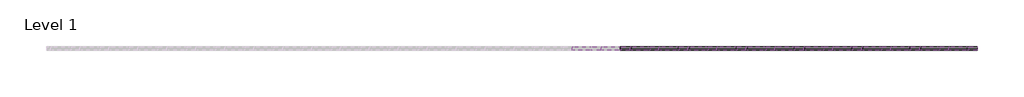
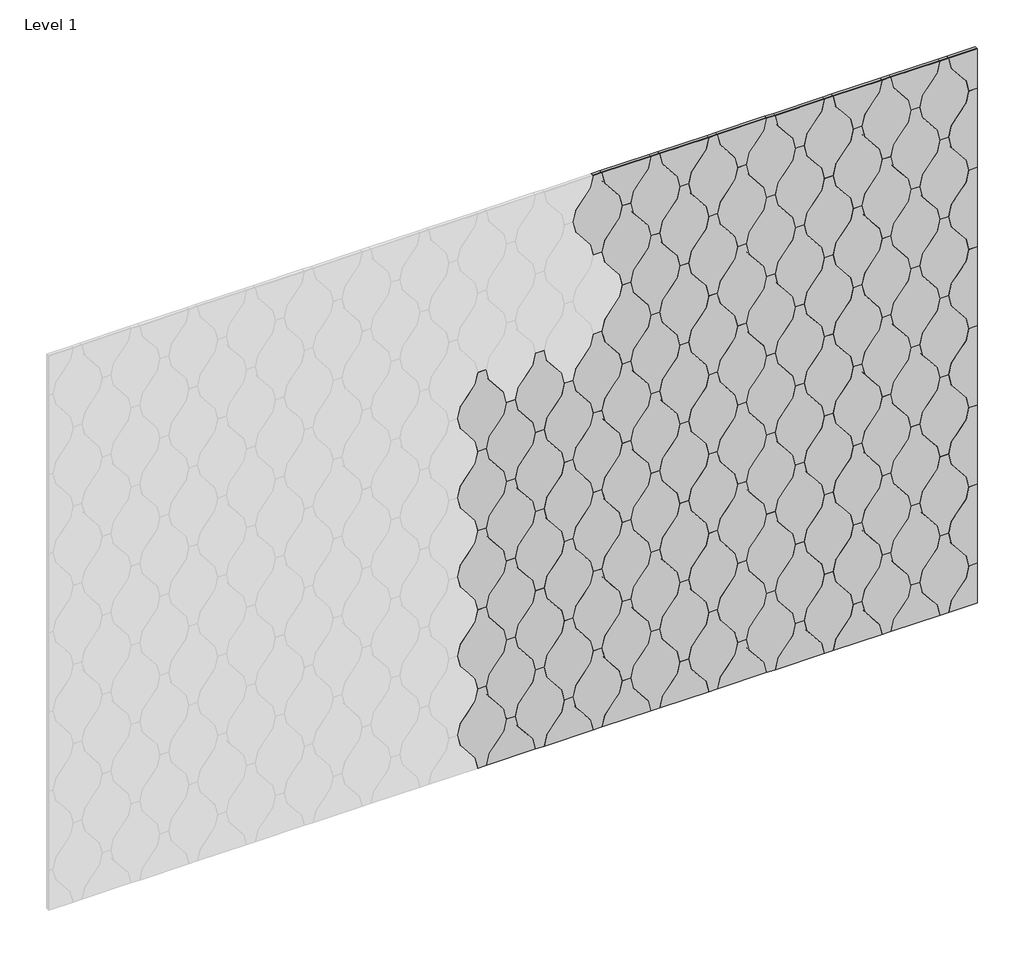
# One storey, part 2 of 2: 124 proxies.
"""IFC4 building model written with IfcOpenShell, lengths in millimetres."""

from ifc_helpers import new_model, si_unit, origin, place, context, project, spatial, transform, mapped, element, save
from components import spindle_block_0c82a0da, spindle_block_164295e7, spindle_block_caec9fa1, spindle_block_4eaa1774, spindle_block_4f026df0, spindle_block_cb91bb9c

model = new_model("IFC4")

# Units and contexts
model_context = context("Model", 3, world=origin())
ifc_project = project(units=[si_unit("LENGTHUNIT", "METRE", prefix="MILLI")], contexts=[model_context])

# Site, building, storey
site = spatial("IfcSite", under=ifc_project)
building = spatial("IfcBuilding", under=site)
storey = spatial("IfcBuildingStorey", under=building, Name="Level 1", Elevation=0.0)

# Proxies
placement = place(None, origin())
spindle_block_shape = spindle_block_0c82a0da(model_context)
element("IfcBuildingElementProxy", 1, Name="FilzFelt_Spindle_Block : Spindle Block", ObjectType="FilzFelt_Spindle_Block : Spindle Block", at=placement, inside=storey, context=model_context, shape_type="MappedRepresentation", body=[
    mapped(spindle_block_shape, transform((34558.1847933, -3215.9647205, 1371.9), x_axis=(1.0, 0.0, 0.0), y_axis=(0.0, 0.0, 1.0), z_axis=(0.0, -1.0, 0.0))),
])
element("IfcBuildingElementProxy", 2, Name="FilzFelt_Spindle_Block : Spindle Block", ObjectType="FilzFelt_Spindle_Block : Spindle Block", at=placement, inside=storey, context=model_context, shape_type="MappedRepresentation", body=[
    mapped(spindle_block_shape, transform((34663.4053284, -3215.9647205, 1219.4), x_axis=(1.0, 0.0, 0.0), y_axis=(0.0, 0.0, 1.0), z_axis=(0.0, -1.0, 0.0))),
])
element("IfcBuildingElementProxy", 3, Name="FilzFelt_Spindle_Block : Spindle Block", ObjectType="FilzFelt_Spindle_Block : Spindle Block", at=placement, inside=storey, context=model_context, shape_type="MappedRepresentation", body=[
    mapped(spindle_block_shape, transform((34873.8463988, -3215.9647205, 1524.4), x_axis=(1.0, 0.0, 0.0), y_axis=(0.0, 0.0, 1.0), z_axis=(0.0, -1.0, 0.0))),
])
element("IfcBuildingElementProxy", 4, Name="FilzFelt_Spindle_Block : Spindle Block", ObjectType="FilzFelt_Spindle_Block : Spindle Block", at=placement, inside=storey, context=model_context, shape_type="MappedRepresentation", body=[
    mapped(spindle_block_shape, transform((35084.2874691, -3215.9647205, 1219.4), x_axis=(1.0, 0.0, 0.0), y_axis=(0.0, 0.0, 1.0), z_axis=(0.0, -1.0, 0.0))),
])
element("IfcBuildingElementProxy", 5, Name="FilzFelt_Spindle_Block : Spindle Block", ObjectType="FilzFelt_Spindle_Block : Spindle Block", at=placement, inside=storey, context=model_context, shape_type="MappedRepresentation", body=[
    mapped(spindle_block_shape, transform((35399.9490746, -3215.9647205, 1371.9), x_axis=(1.0, 0.0, 0.0), y_axis=(0.0, 0.0, 1.0), z_axis=(0.0, -1.0, 0.0))),
])
element("IfcBuildingElementProxy", 6, Name="FilzFelt_Spindle_Block : Spindle Block", ObjectType="FilzFelt_Spindle_Block : Spindle Block", at=placement, inside=storey, context=model_context, shape_type="MappedRepresentation", body=[
    mapped(spindle_block_shape, transform((35610.3901449, -3215.9647205, 1066.9), x_axis=(1.0, 0.0, 0.0), y_axis=(0.0, 0.0, 1.0), z_axis=(0.0, -1.0, 0.0))),
])
element("IfcBuildingElementProxy", 7, Name="FilzFelt_Spindle_Block : Spindle Block", ObjectType="FilzFelt_Spindle_Block : Spindle Block", at=placement, inside=storey, context=model_context, shape_type="MappedRepresentation", body=[
    mapped(spindle_block_shape, transform((34032.0821174, -3215.9647205, 914.4), x_axis=(1.0, 0.0, 0.0), y_axis=(0.0, 0.0, 1.0), z_axis=(0.0, -1.0, 0.0))),
])
element("IfcBuildingElementProxy", 8, Name="FilzFelt_Spindle_Block : Spindle Block", ObjectType="FilzFelt_Spindle_Block : Spindle Block", at=placement, inside=storey, context=model_context, shape_type="MappedRepresentation", body=[
    mapped(spindle_block_shape, transform((34242.5231878, -3215.9647205, 609.4), x_axis=(1.0, 0.0, 0.0), y_axis=(0.0, 0.0, 1.0), z_axis=(0.0, -1.0, 0.0))),
])
element("IfcBuildingElementProxy", 9, Name="FilzFelt_Spindle_Block : Spindle Block", ObjectType="FilzFelt_Spindle_Block : Spindle Block", at=placement, inside=storey, context=model_context, shape_type="MappedRepresentation", body=[
    mapped(spindle_block_shape, transform((34347.7437229, -3215.9647205, 456.9), x_axis=(1.0, 0.0, 0.0), y_axis=(0.0, 0.0, 1.0), z_axis=(0.0, -1.0, 0.0))),
])
element("IfcBuildingElementProxy", 10, Name="FilzFelt_Spindle_Block : Spindle Block", ObjectType="FilzFelt_Spindle_Block : Spindle Block", at=placement, inside=storey, context=model_context, shape_type="MappedRepresentation", body=[
    mapped(spindle_block_shape, transform((34558.1847933, -3215.9647205, 761.9), x_axis=(1.0, 0.0, 0.0), y_axis=(0.0, 0.0, 1.0), z_axis=(0.0, -1.0, 0.0))),
])
element("IfcBuildingElementProxy", 11, Name="FilzFelt_Spindle_Block : Spindle Block", ObjectType="FilzFelt_Spindle_Block : Spindle Block", at=placement, inside=storey, context=model_context, shape_type="MappedRepresentation", body=[
    mapped(spindle_block_shape, transform((34873.8463988, -3215.9647205, 609.4), x_axis=(1.0, 0.0, 0.0), y_axis=(0.0, 0.0, 1.0), z_axis=(0.0, -1.0, 0.0))),
])
element("IfcBuildingElementProxy", 12, Name="FilzFelt_Spindle_Block : Spindle Block", ObjectType="FilzFelt_Spindle_Block : Spindle Block", at=placement, inside=storey, context=model_context, shape_type="MappedRepresentation", body=[
    mapped(spindle_block_shape, transform((34873.8463988, -3215.9647205, 914.4), x_axis=(1.0, 0.0, 0.0), y_axis=(0.0, 0.0, 1.0), z_axis=(0.0, -1.0, 0.0))),
])
element("IfcBuildingElementProxy", 13, Name="FilzFelt_Spindle_Block : Spindle Block", ObjectType="FilzFelt_Spindle_Block : Spindle Block", at=placement, inside=storey, context=model_context, shape_type="MappedRepresentation", body=[
    mapped(spindle_block_shape, transform((34979.0669339, -3215.9647205, 761.9), x_axis=(1.0, 0.0, 0.0), y_axis=(0.0, 0.0, 1.0), z_axis=(0.0, -1.0, 0.0))),
])
element("IfcBuildingElementProxy", 14, Name="FilzFelt_Spindle_Block : Spindle Block", ObjectType="FilzFelt_Spindle_Block : Spindle Block", at=placement, inside=storey, context=model_context, shape_type="MappedRepresentation", body=[
    mapped(spindle_block_shape, transform((35084.2874691, -3215.9647205, 609.4), x_axis=(1.0, 0.0, 0.0), y_axis=(0.0, 0.0, 1.0), z_axis=(0.0, -1.0, 0.0))),
])
element("IfcBuildingElementProxy", 15, Name="FilzFelt_Spindle_Block : Spindle Block", ObjectType="FilzFelt_Spindle_Block : Spindle Block", at=placement, inside=storey, context=model_context, shape_type="MappedRepresentation", body=[
    mapped(spindle_block_shape, transform((35294.7285394, -3215.9647205, 914.4), x_axis=(1.0, 0.0, 0.0), y_axis=(0.0, 0.0, 1.0), z_axis=(0.0, -1.0, 0.0))),
])
element("IfcBuildingElementProxy", 16, Name="FilzFelt_Spindle_Block : Spindle Block", ObjectType="FilzFelt_Spindle_Block : Spindle Block", at=placement, inside=storey, context=model_context, shape_type="MappedRepresentation", body=[
    mapped(spindle_block_shape, transform((35505.1696098, -3215.9647205, 609.4), x_axis=(1.0, 0.0, 0.0), y_axis=(0.0, 0.0, 1.0), z_axis=(0.0, -1.0, 0.0))),
])
element("IfcBuildingElementProxy", 17, Name="FilzFelt_Spindle_Block : Spindle Block", ObjectType="FilzFelt_Spindle_Block : Spindle Block", at=placement, inside=storey, context=model_context, shape_type="MappedRepresentation", body=[
    mapped(spindle_block_shape, transform((35610.3901449, -3215.9647205, 456.9), x_axis=(1.0, 0.0, 0.0), y_axis=(0.0, 0.0, 1.0), z_axis=(0.0, -1.0, 0.0))),
])
element("IfcBuildingElementProxy", 18, Name="FilzFelt_Spindle_Block : Spindle Block", ObjectType="FilzFelt_Spindle_Block : Spindle Block", at=placement, inside=storey, context=model_context, shape_type="MappedRepresentation", body=[
    mapped(spindle_block_shape, transform((35715.6106801, -3215.9647205, 914.4), x_axis=(1.0, 0.0, 0.0), y_axis=(0.0, 0.0, 1.0), z_axis=(0.0, -1.0, 0.0))),
])
element("IfcBuildingElementProxy", 19, Name="FilzFelt_Spindle_Block : Spindle Block", ObjectType="FilzFelt_Spindle_Block : Spindle Block", at=placement, inside=storey, context=model_context, shape_type="MappedRepresentation", body=[
    mapped(spindle_block_shape, transform((34242.5231878, -3215.9647205, -0.6), x_axis=(1.0, 0.0, 0.0), y_axis=(0.0, 0.0, 1.0), z_axis=(0.0, -1.0, 0.0))),
])
element("IfcBuildingElementProxy", 20, Name="FilzFelt_Spindle_Block : Spindle Block", ObjectType="FilzFelt_Spindle_Block : Spindle Block", at=placement, inside=storey, context=model_context, shape_type="MappedRepresentation", body=[
    mapped(spindle_block_shape, transform((34347.7437229, -3215.9647205, 151.9), x_axis=(1.0, 0.0, 0.0), y_axis=(0.0, 0.0, 1.0), z_axis=(0.0, -1.0, 0.0))),
])
element("IfcBuildingElementProxy", 21, Name="FilzFelt_Spindle_Block : Spindle Block", ObjectType="FilzFelt_Spindle_Block : Spindle Block", at=placement, inside=storey, context=model_context, shape_type="MappedRepresentation", body=[
    mapped(spindle_block_shape, transform((34558.1847933, -3215.9647205, -153.1), x_axis=(1.0, 0.0, 0.0), y_axis=(0.0, 0.0, 1.0), z_axis=(0.0, -1.0, 0.0))),
])
element("IfcBuildingElementProxy", 22, Name="FilzFelt_Spindle_Block : Spindle Block", ObjectType="FilzFelt_Spindle_Block : Spindle Block", at=placement, inside=storey, context=model_context, shape_type="MappedRepresentation", body=[
    mapped(spindle_block_shape, transform((34663.4053284, -3215.9647205, 304.4), x_axis=(1.0, 0.0, 0.0), y_axis=(0.0, 0.0, 1.0), z_axis=(0.0, -1.0, 0.0))),
])
element("IfcBuildingElementProxy", 23, Name="FilzFelt_Spindle_Block : Spindle Block", ObjectType="FilzFelt_Spindle_Block : Spindle Block", at=placement, inside=storey, context=model_context, shape_type="MappedRepresentation", body=[
    mapped(spindle_block_shape, transform((34873.8463988, -3215.9647205, -0.6), x_axis=(1.0, 0.0, 0.0), y_axis=(0.0, 0.0, 1.0), z_axis=(0.0, -1.0, 0.0))),
])
element("IfcBuildingElementProxy", 24, Name="FilzFelt_Spindle_Block : Spindle Block", ObjectType="FilzFelt_Spindle_Block : Spindle Block", at=placement, inside=storey, context=model_context, shape_type="MappedRepresentation", body=[
    mapped(spindle_block_shape, transform((34873.8463988, -3215.9647205, 304.4), x_axis=(1.0, 0.0, 0.0), y_axis=(0.0, 0.0, 1.0), z_axis=(0.0, -1.0, 0.0))),
])
element("IfcBuildingElementProxy", 25, Name="FilzFelt_Spindle_Block : Spindle Block", ObjectType="FilzFelt_Spindle_Block : Spindle Block", at=placement, inside=storey, context=model_context, shape_type="MappedRepresentation", body=[
    mapped(spindle_block_shape, transform((35084.2874691, -3215.9647205, 304.4), x_axis=(1.0, 0.0, 0.0), y_axis=(0.0, 0.0, 1.0), z_axis=(0.0, -1.0, 0.0))),
])
element("IfcBuildingElementProxy", 26, Name="FilzFelt_Spindle_Block : Spindle Block", ObjectType="FilzFelt_Spindle_Block : Spindle Block", at=placement, inside=storey, context=model_context, shape_type="MappedRepresentation", body=[
    mapped(spindle_block_shape, transform((35189.5080043, -3215.9647205, 151.9), x_axis=(1.0, 0.0, 0.0), y_axis=(0.0, 0.0, 1.0), z_axis=(0.0, -1.0, 0.0))),
])
element("IfcBuildingElementProxy", 27, Name="FilzFelt_Spindle_Block : Spindle Block", ObjectType="FilzFelt_Spindle_Block : Spindle Block", at=placement, inside=storey, context=model_context, shape_type="MappedRepresentation", body=[
    mapped(spindle_block_shape, transform((35399.9490746, -3215.9647205, 151.9), x_axis=(1.0, 0.0, 0.0), y_axis=(0.0, 0.0, 1.0), z_axis=(0.0, -1.0, 0.0))),
])
element("IfcBuildingElementProxy", 28, Name="FilzFelt_Spindle_Block : Spindle Block", ObjectType="FilzFelt_Spindle_Block : Spindle Block", at=placement, inside=storey, context=model_context, shape_type="MappedRepresentation", body=[
    mapped(spindle_block_shape, transform((35399.9490746, -3215.9647205, -153.1), x_axis=(1.0, 0.0, 0.0), y_axis=(0.0, 0.0, 1.0), z_axis=(0.0, -1.0, 0.0))),
])
element("IfcBuildingElementProxy", 29, Name="FilzFelt_Spindle_Block : Spindle Block", ObjectType="FilzFelt_Spindle_Block : Spindle Block", at=placement, inside=storey, context=model_context, shape_type="MappedRepresentation", body=[
    mapped(spindle_block_shape, transform((34663.4053284, -3215.9647205, -305.6), x_axis=(1.0, 0.0, 0.0), y_axis=(0.0, 0.0, 1.0), z_axis=(0.0, -1.0, 0.0))),
])
element("IfcBuildingElementProxy", 30, Name="FilzFelt_Spindle_Block : Spindle Block", ObjectType="FilzFelt_Spindle_Block : Spindle Block", at=placement, inside=storey, context=model_context, shape_type="MappedRepresentation", body=[
    mapped(spindle_block_shape, transform((35084.2874691, -3215.9647205, -305.6), x_axis=(1.0, 0.0, 0.0), y_axis=(0.0, 0.0, 1.0), z_axis=(0.0, -1.0, 0.0))),
])
spindle_block_2_shape = spindle_block_164295e7(model_context)
element("IfcBuildingElementProxy", 31, Name="FilzFelt_Spindle_Block : Spindle Block", ObjectType="FilzFelt_Spindle_Block : Spindle Block", at=placement, inside=storey, context=model_context, shape_type="MappedRepresentation", body=[
    mapped(spindle_block_2_shape, transform((34347.7437229, -3215.9647205, -458.1), x_axis=(1.0, 0.0, 0.0), y_axis=(0.0, 0.0, 1.0), z_axis=(0.0, -1.0, 0.0))),
])
element("IfcBuildingElementProxy", 32, Name="FilzFelt_Spindle_Block : Spindle Block", ObjectType="FilzFelt_Spindle_Block : Spindle Block", at=placement, inside=storey, context=model_context, shape_type="MappedRepresentation", body=[
    mapped(spindle_block_2_shape, transform((35610.3901449, -3215.9647205, -458.1), x_axis=(1.0, 0.0, 0.0), y_axis=(0.0, 0.0, 1.0), z_axis=(0.0, -1.0, 0.0))),
])
spindle_block_3_shape = spindle_block_caec9fa1(model_context)
element("IfcBuildingElementProxy", 33, Name="FilzFelt_Spindle_Block : Spindle Block", ObjectType="FilzFelt_Spindle_Block : Spindle Block", at=placement, inside=storey, context=model_context, shape_type="MappedRepresentation", body=[
    mapped(spindle_block_3_shape, transform((35189.5080043, -3215.9647205, 1676.9), x_axis=(1.0, 0.0, 0.0), y_axis=(0.0, 0.0, 1.0), z_axis=(0.0, -1.0, 0.0))),
])
element("IfcBuildingElementProxy", 34, Name="FilzFelt_Spindle_Block : Spindle Block", ObjectType="FilzFelt_Spindle_Block : Spindle Block", at=placement, inside=storey, context=model_context, shape_type="MappedRepresentation", body=[
    mapped(spindle_block_3_shape, transform((35399.9490746, -3215.9647205, 1676.9), x_axis=(1.0, 0.0, 0.0), y_axis=(0.0, 0.0, 1.0), z_axis=(0.0, -1.0, 0.0))),
])
element("IfcBuildingElementProxy", 35, Name="FilzFelt_Spindle_Block : Spindle Block", ObjectType="FilzFelt_Spindle_Block : Spindle Block", at=placement, inside=storey, context=model_context, shape_type="MappedRepresentation", body=[
    mapped(spindle_block_shape, transform((34452.9642581, -3215.9647205, 1524.4), x_axis=(1.0, 0.0, 0.0), y_axis=(0.0, 0.0, 1.0), z_axis=(0.0, -1.0, 0.0))),
])
element("IfcBuildingElementProxy", 36, Name="FilzFelt_Spindle_Block : Spindle Block", ObjectType="FilzFelt_Spindle_Block : Spindle Block", at=placement, inside=storey, context=model_context, shape_type="MappedRepresentation", body=[
    mapped(spindle_block_shape, transform((34768.6258636, -3215.9647205, 1371.9), x_axis=(1.0, 0.0, 0.0), y_axis=(0.0, 0.0, 1.0), z_axis=(0.0, -1.0, 0.0))),
])
element("IfcBuildingElementProxy", 37, Name="FilzFelt_Spindle_Block : Spindle Block", ObjectType="FilzFelt_Spindle_Block : Spindle Block", at=placement, inside=storey, context=model_context, shape_type="MappedRepresentation", body=[
    mapped(spindle_block_shape, transform((34979.0669339, -3215.9647205, 1066.9), x_axis=(1.0, 0.0, 0.0), y_axis=(0.0, 0.0, 1.0), z_axis=(0.0, -1.0, 0.0))),
])
element("IfcBuildingElementProxy", 38, Name="FilzFelt_Spindle_Block : Spindle Block", ObjectType="FilzFelt_Spindle_Block : Spindle Block", at=placement, inside=storey, context=model_context, shape_type="MappedRepresentation", body=[
    mapped(spindle_block_shape, transform((35189.5080043, -3215.9647205, 1371.9), x_axis=(1.0, 0.0, 0.0), y_axis=(0.0, 0.0, 1.0), z_axis=(0.0, -1.0, 0.0))),
])
element("IfcBuildingElementProxy", 39, Name="FilzFelt_Spindle_Block : Spindle Block", ObjectType="FilzFelt_Spindle_Block : Spindle Block", at=placement, inside=storey, context=model_context, shape_type="MappedRepresentation", body=[
    mapped(spindle_block_shape, transform((35294.7285394, -3215.9647205, 1219.4), x_axis=(1.0, 0.0, 0.0), y_axis=(0.0, 0.0, 1.0), z_axis=(0.0, -1.0, 0.0))),
])
element("IfcBuildingElementProxy", 40, Name="FilzFelt_Spindle_Block : Spindle Block", ObjectType="FilzFelt_Spindle_Block : Spindle Block", at=placement, inside=storey, context=model_context, shape_type="MappedRepresentation", body=[
    mapped(spindle_block_shape, transform((35505.1696098, -3215.9647205, 1524.4), x_axis=(1.0, 0.0, 0.0), y_axis=(0.0, 0.0, 1.0), z_axis=(0.0, -1.0, 0.0))),
])
element("IfcBuildingElementProxy", 41, Name="FilzFelt_Spindle_Block : Spindle Block", ObjectType="FilzFelt_Spindle_Block : Spindle Block", at=placement, inside=storey, context=model_context, shape_type="MappedRepresentation", body=[
    mapped(spindle_block_shape, transform((35715.6106801, -3215.9647205, 1219.4), x_axis=(1.0, 0.0, 0.0), y_axis=(0.0, 0.0, 1.0), z_axis=(0.0, -1.0, 0.0))),
])
element("IfcBuildingElementProxy", 42, Name="FilzFelt_Spindle_Block : Spindle Block", ObjectType="FilzFelt_Spindle_Block : Spindle Block", at=placement, inside=storey, context=model_context, shape_type="MappedRepresentation", body=[
    mapped(spindle_block_shape, transform((34137.3026526, -3215.9647205, 761.9), x_axis=(1.0, 0.0, 0.0), y_axis=(0.0, 0.0, 1.0), z_axis=(0.0, -1.0, 0.0))),
])
element("IfcBuildingElementProxy", 43, Name="FilzFelt_Spindle_Block : Spindle Block", ObjectType="FilzFelt_Spindle_Block : Spindle Block", at=placement, inside=storey, context=model_context, shape_type="MappedRepresentation", body=[
    mapped(spindle_block_shape, transform((34242.5231878, -3215.9647205, 914.4), x_axis=(1.0, 0.0, 0.0), y_axis=(0.0, 0.0, 1.0), z_axis=(0.0, -1.0, 0.0))),
])
element("IfcBuildingElementProxy", 44, Name="FilzFelt_Spindle_Block : Spindle Block", ObjectType="FilzFelt_Spindle_Block : Spindle Block", at=placement, inside=storey, context=model_context, shape_type="MappedRepresentation", body=[
    mapped(spindle_block_shape, transform((34558.1847933, -3215.9647205, 456.9), x_axis=(1.0, 0.0, 0.0), y_axis=(0.0, 0.0, 1.0), z_axis=(0.0, -1.0, 0.0))),
])
element("IfcBuildingElementProxy", 45, Name="FilzFelt_Spindle_Block : Spindle Block", ObjectType="FilzFelt_Spindle_Block : Spindle Block", at=placement, inside=storey, context=model_context, shape_type="MappedRepresentation", body=[
    mapped(spindle_block_shape, transform((34768.6258636, -3215.9647205, 761.9), x_axis=(1.0, 0.0, 0.0), y_axis=(0.0, 0.0, 1.0), z_axis=(0.0, -1.0, 0.0))),
])
element("IfcBuildingElementProxy", 46, Name="FilzFelt_Spindle_Block : Spindle Block", ObjectType="FilzFelt_Spindle_Block : Spindle Block", at=placement, inside=storey, context=model_context, shape_type="MappedRepresentation", body=[
    mapped(spindle_block_shape, transform((35399.9490746, -3215.9647205, 761.9), x_axis=(1.0, 0.0, 0.0), y_axis=(0.0, 0.0, 1.0), z_axis=(0.0, -1.0, 0.0))),
])
element("IfcBuildingElementProxy", 47, Name="FilzFelt_Spindle_Block : Spindle Block", ObjectType="FilzFelt_Spindle_Block : Spindle Block", at=placement, inside=storey, context=model_context, shape_type="MappedRepresentation", body=[
    mapped(spindle_block_shape, transform((35399.9490746, -3215.9647205, 456.9), x_axis=(1.0, 0.0, 0.0), y_axis=(0.0, 0.0, 1.0), z_axis=(0.0, -1.0, 0.0))),
])
element("IfcBuildingElementProxy", 48, Name="FilzFelt_Spindle_Block : Spindle Block", ObjectType="FilzFelt_Spindle_Block : Spindle Block", at=placement, inside=storey, context=model_context, shape_type="MappedRepresentation", body=[
    mapped(spindle_block_shape, transform((34032.0821174, -3215.9647205, 304.4), x_axis=(1.0, 0.0, 0.0), y_axis=(0.0, 0.0, 1.0), z_axis=(0.0, -1.0, 0.0))),
])
element("IfcBuildingElementProxy", 49, Name="FilzFelt_Spindle_Block : Spindle Block", ObjectType="FilzFelt_Spindle_Block : Spindle Block", at=placement, inside=storey, context=model_context, shape_type="MappedRepresentation", body=[
    mapped(spindle_block_shape, transform((34452.9642581, -3215.9647205, -0.6), x_axis=(1.0, 0.0, 0.0), y_axis=(0.0, 0.0, 1.0), z_axis=(0.0, -1.0, 0.0))),
])
element("IfcBuildingElementProxy", 50, Name="FilzFelt_Spindle_Block : Spindle Block", ObjectType="FilzFelt_Spindle_Block : Spindle Block", at=placement, inside=storey, context=model_context, shape_type="MappedRepresentation", body=[
    mapped(spindle_block_shape, transform((34768.6258636, -3215.9647205, -153.1), x_axis=(1.0, 0.0, 0.0), y_axis=(0.0, 0.0, 1.0), z_axis=(0.0, -1.0, 0.0))),
])
element("IfcBuildingElementProxy", 51, Name="FilzFelt_Spindle_Block : Spindle Block", ObjectType="FilzFelt_Spindle_Block : Spindle Block", at=placement, inside=storey, context=model_context, shape_type="MappedRepresentation", body=[
    mapped(spindle_block_shape, transform((35189.5080043, -3215.9647205, -153.1), x_axis=(1.0, 0.0, 0.0), y_axis=(0.0, 0.0, 1.0), z_axis=(0.0, -1.0, 0.0))),
])
element("IfcBuildingElementProxy", 52, Name="FilzFelt_Spindle_Block : Spindle Block", ObjectType="FilzFelt_Spindle_Block : Spindle Block", at=placement, inside=storey, context=model_context, shape_type="MappedRepresentation", body=[
    mapped(spindle_block_shape, transform((35505.1696098, -3215.9647205, -0.6), x_axis=(1.0, 0.0, 0.0), y_axis=(0.0, 0.0, 1.0), z_axis=(0.0, -1.0, 0.0))),
])
element("IfcBuildingElementProxy", 53, Name="FilzFelt_Spindle_Block : Spindle Block", ObjectType="FilzFelt_Spindle_Block : Spindle Block", at=placement, inside=storey, context=model_context, shape_type="MappedRepresentation", body=[
    mapped(spindle_block_shape, transform((35715.6106801, -3215.9647205, 304.4), x_axis=(1.0, 0.0, 0.0), y_axis=(0.0, 0.0, 1.0), z_axis=(0.0, -1.0, 0.0))),
])
element("IfcBuildingElementProxy", 54, Name="FilzFelt_Spindle_Block : Spindle Block", ObjectType="FilzFelt_Spindle_Block : Spindle Block", at=placement, inside=storey, context=model_context, shape_type="MappedRepresentation", body=[
    mapped(spindle_block_shape, transform((34032.0821174, -3215.9647205, -305.6), x_axis=(1.0, 0.0, 0.0), y_axis=(0.0, 0.0, 1.0), z_axis=(0.0, -1.0, 0.0))),
])
element("IfcBuildingElementProxy", 55, Name="FilzFelt_Spindle_Block : Spindle Block", ObjectType="FilzFelt_Spindle_Block : Spindle Block", at=placement, inside=storey, context=model_context, shape_type="MappedRepresentation", body=[
    mapped(spindle_block_shape, transform((34452.9642581, -3215.9647205, -305.6), x_axis=(1.0, 0.0, 0.0), y_axis=(0.0, 0.0, 1.0), z_axis=(0.0, -1.0, 0.0))),
])
element("IfcBuildingElementProxy", 56, Name="FilzFelt_Spindle_Block : Spindle Block", ObjectType="FilzFelt_Spindle_Block : Spindle Block", at=placement, inside=storey, context=model_context, shape_type="MappedRepresentation", body=[
    mapped(spindle_block_shape, transform((35294.7285394, -3215.9647205, -305.6), x_axis=(1.0, 0.0, 0.0), y_axis=(0.0, 0.0, 1.0), z_axis=(0.0, -1.0, 0.0))),
])
element("IfcBuildingElementProxy", 57, Name="FilzFelt_Spindle_Block : Spindle Block", ObjectType="FilzFelt_Spindle_Block : Spindle Block", at=placement, inside=storey, context=model_context, shape_type="MappedRepresentation", body=[
    mapped(spindle_block_shape, transform((35715.6106801, -3215.9647205, -305.6), x_axis=(1.0, 0.0, 0.0), y_axis=(0.0, 0.0, 1.0), z_axis=(0.0, -1.0, 0.0))),
])
spindle_block_4_shape = spindle_block_4eaa1774(model_context)
element("IfcBuildingElementProxy", 58, Name="FilzFelt_Spindle_Block : Spindle Block", ObjectType="FilzFelt_Spindle_Block : Spindle Block", at=placement, inside=storey, context=model_context, shape_type="MappedRepresentation", body=[
    mapped(spindle_block_4_shape, transform((35820.8312153, -3215.9647205, 761.9), x_axis=(1.0, 0.0, 0.0), y_axis=(0.0, 0.0, 1.0), z_axis=(0.0, -1.0, 0.0))),
])
element("IfcBuildingElementProxy", 59, Name="FilzFelt_Spindle_Block : Spindle Block", ObjectType="FilzFelt_Spindle_Block : Spindle Block", at=placement, inside=storey, context=model_context, shape_type="MappedRepresentation", body=[
    mapped(spindle_block_2_shape, transform((34979.0669339, -3215.9647205, -458.1), x_axis=(1.0, 0.0, 0.0), y_axis=(0.0, 0.0, 1.0), z_axis=(0.0, -1.0, 0.0))),
])
element("IfcBuildingElementProxy", 60, Name="FilzFelt_Spindle_Block : Spindle Block", ObjectType="FilzFelt_Spindle_Block : Spindle Block", at=placement, inside=storey, context=model_context, shape_type="MappedRepresentation", body=[
    mapped(spindle_block_shape, transform((34558.1847933, -3215.9647205, 1066.9), x_axis=(1.0, 0.0, 0.0), y_axis=(0.0, 0.0, 1.0), z_axis=(0.0, -1.0, 0.0))),
])
element("IfcBuildingElementProxy", 61, Name="FilzFelt_Spindle_Block : Spindle Block", ObjectType="FilzFelt_Spindle_Block : Spindle Block", at=placement, inside=storey, context=model_context, shape_type="MappedRepresentation", body=[
    mapped(spindle_block_shape, transform((34663.4053284, -3215.9647205, 1524.4), x_axis=(1.0, 0.0, 0.0), y_axis=(0.0, 0.0, 1.0), z_axis=(0.0, -1.0, 0.0))),
])
element("IfcBuildingElementProxy", 62, Name="FilzFelt_Spindle_Block : Spindle Block", ObjectType="FilzFelt_Spindle_Block : Spindle Block", at=placement, inside=storey, context=model_context, shape_type="MappedRepresentation", body=[
    mapped(spindle_block_shape, transform((34873.8463988, -3215.9647205, 1219.4), x_axis=(1.0, 0.0, 0.0), y_axis=(0.0, 0.0, 1.0), z_axis=(0.0, -1.0, 0.0))),
])
element("IfcBuildingElementProxy", 63, Name="FilzFelt_Spindle_Block : Spindle Block", ObjectType="FilzFelt_Spindle_Block : Spindle Block", at=placement, inside=storey, context=model_context, shape_type="MappedRepresentation", body=[
    mapped(spindle_block_shape, transform((35084.2874691, -3215.9647205, 1524.4), x_axis=(1.0, 0.0, 0.0), y_axis=(0.0, 0.0, 1.0), z_axis=(0.0, -1.0, 0.0))),
])
element("IfcBuildingElementProxy", 64, Name="FilzFelt_Spindle_Block : Spindle Block", ObjectType="FilzFelt_Spindle_Block : Spindle Block", at=placement, inside=storey, context=model_context, shape_type="MappedRepresentation", body=[
    mapped(spindle_block_shape, transform((35505.1696098, -3215.9647205, 1219.4), x_axis=(1.0, 0.0, 0.0), y_axis=(0.0, 0.0, 1.0), z_axis=(0.0, -1.0, 0.0))),
])
element("IfcBuildingElementProxy", 65, Name="FilzFelt_Spindle_Block : Spindle Block", ObjectType="FilzFelt_Spindle_Block : Spindle Block", at=placement, inside=storey, context=model_context, shape_type="MappedRepresentation", body=[
    mapped(spindle_block_shape, transform((35715.6106801, -3215.9647205, 1524.4), x_axis=(1.0, 0.0, 0.0), y_axis=(0.0, 0.0, 1.0), z_axis=(0.0, -1.0, 0.0))),
])
element("IfcBuildingElementProxy", 66, Name="FilzFelt_Spindle_Block : Spindle Block", ObjectType="FilzFelt_Spindle_Block : Spindle Block", at=placement, inside=storey, context=model_context, shape_type="MappedRepresentation", body=[
    mapped(spindle_block_shape, transform((34032.0821174, -3215.9647205, 609.4), x_axis=(1.0, 0.0, 0.0), y_axis=(0.0, 0.0, 1.0), z_axis=(0.0, -1.0, 0.0))),
])
element("IfcBuildingElementProxy", 67, Name="FilzFelt_Spindle_Block : Spindle Block", ObjectType="FilzFelt_Spindle_Block : Spindle Block", at=placement, inside=storey, context=model_context, shape_type="MappedRepresentation", body=[
    mapped(spindle_block_shape, transform((34452.9642581, -3215.9647205, 609.4), x_axis=(1.0, 0.0, 0.0), y_axis=(0.0, 0.0, 1.0), z_axis=(0.0, -1.0, 0.0))),
])
element("IfcBuildingElementProxy", 68, Name="FilzFelt_Spindle_Block : Spindle Block", ObjectType="FilzFelt_Spindle_Block : Spindle Block", at=placement, inside=storey, context=model_context, shape_type="MappedRepresentation", body=[
    mapped(spindle_block_shape, transform((34452.9642581, -3215.9647205, 914.4), x_axis=(1.0, 0.0, 0.0), y_axis=(0.0, 0.0, 1.0), z_axis=(0.0, -1.0, 0.0))),
])
element("IfcBuildingElementProxy", 69, Name="FilzFelt_Spindle_Block : Spindle Block", ObjectType="FilzFelt_Spindle_Block : Spindle Block", at=placement, inside=storey, context=model_context, shape_type="MappedRepresentation", body=[
    mapped(spindle_block_shape, transform((34663.4053284, -3215.9647205, 609.4), x_axis=(1.0, 0.0, 0.0), y_axis=(0.0, 0.0, 1.0), z_axis=(0.0, -1.0, 0.0))),
])
element("IfcBuildingElementProxy", 70, Name="FilzFelt_Spindle_Block : Spindle Block", ObjectType="FilzFelt_Spindle_Block : Spindle Block", at=placement, inside=storey, context=model_context, shape_type="MappedRepresentation", body=[
    mapped(spindle_block_shape, transform((34979.0669339, -3215.9647205, 456.9), x_axis=(1.0, 0.0, 0.0), y_axis=(0.0, 0.0, 1.0), z_axis=(0.0, -1.0, 0.0))),
])
element("IfcBuildingElementProxy", 71, Name="FilzFelt_Spindle_Block : Spindle Block", ObjectType="FilzFelt_Spindle_Block : Spindle Block", at=placement, inside=storey, context=model_context, shape_type="MappedRepresentation", body=[
    mapped(spindle_block_shape, transform((35084.2874691, -3215.9647205, 914.4), x_axis=(1.0, 0.0, 0.0), y_axis=(0.0, 0.0, 1.0), z_axis=(0.0, -1.0, 0.0))),
])
element("IfcBuildingElementProxy", 72, Name="FilzFelt_Spindle_Block : Spindle Block", ObjectType="FilzFelt_Spindle_Block : Spindle Block", at=placement, inside=storey, context=model_context, shape_type="MappedRepresentation", body=[
    mapped(spindle_block_shape, transform((35189.5080043, -3215.9647205, 761.9), x_axis=(1.0, 0.0, 0.0), y_axis=(0.0, 0.0, 1.0), z_axis=(0.0, -1.0, 0.0))),
])
element("IfcBuildingElementProxy", 73, Name="FilzFelt_Spindle_Block : Spindle Block", ObjectType="FilzFelt_Spindle_Block : Spindle Block", at=placement, inside=storey, context=model_context, shape_type="MappedRepresentation", body=[
    mapped(spindle_block_shape, transform((35610.3901449, -3215.9647205, 761.9), x_axis=(1.0, 0.0, 0.0), y_axis=(0.0, 0.0, 1.0), z_axis=(0.0, -1.0, 0.0))),
])
element("IfcBuildingElementProxy", 74, Name="FilzFelt_Spindle_Block : Spindle Block", ObjectType="FilzFelt_Spindle_Block : Spindle Block", at=placement, inside=storey, context=model_context, shape_type="MappedRepresentation", body=[
    mapped(spindle_block_shape, transform((35715.6106801, -3215.9647205, 609.4), x_axis=(1.0, 0.0, 0.0), y_axis=(0.0, 0.0, 1.0), z_axis=(0.0, -1.0, 0.0))),
])
element("IfcBuildingElementProxy", 75, Name="FilzFelt_Spindle_Block : Spindle Block", ObjectType="FilzFelt_Spindle_Block : Spindle Block", at=placement, inside=storey, context=model_context, shape_type="MappedRepresentation", body=[
    mapped(spindle_block_shape, transform((34032.0821174, -3215.9647205, -0.6), x_axis=(1.0, 0.0, 0.0), y_axis=(0.0, 0.0, 1.0), z_axis=(0.0, -1.0, 0.0))),
])
element("IfcBuildingElementProxy", 76, Name="FilzFelt_Spindle_Block : Spindle Block", ObjectType="FilzFelt_Spindle_Block : Spindle Block", at=placement, inside=storey, context=model_context, shape_type="MappedRepresentation", body=[
    mapped(spindle_block_shape, transform((34137.3026526, -3215.9647205, 151.9), x_axis=(1.0, 0.0, 0.0), y_axis=(0.0, 0.0, 1.0), z_axis=(0.0, -1.0, 0.0))),
])
element("IfcBuildingElementProxy", 77, Name="FilzFelt_Spindle_Block : Spindle Block", ObjectType="FilzFelt_Spindle_Block : Spindle Block", at=placement, inside=storey, context=model_context, shape_type="MappedRepresentation", body=[
    mapped(spindle_block_shape, transform((34347.7437229, -3215.9647205, -153.1), x_axis=(1.0, 0.0, 0.0), y_axis=(0.0, 0.0, 1.0), z_axis=(0.0, -1.0, 0.0))),
])
element("IfcBuildingElementProxy", 78, Name="FilzFelt_Spindle_Block : Spindle Block", ObjectType="FilzFelt_Spindle_Block : Spindle Block", at=placement, inside=storey, context=model_context, shape_type="MappedRepresentation", body=[
    mapped(spindle_block_shape, transform((34452.9642581, -3215.9647205, 304.4), x_axis=(1.0, 0.0, 0.0), y_axis=(0.0, 0.0, 1.0), z_axis=(0.0, -1.0, 0.0))),
])
element("IfcBuildingElementProxy", 79, Name="FilzFelt_Spindle_Block : Spindle Block", ObjectType="FilzFelt_Spindle_Block : Spindle Block", at=placement, inside=storey, context=model_context, shape_type="MappedRepresentation", body=[
    mapped(spindle_block_shape, transform((34663.4053284, -3215.9647205, -0.6), x_axis=(1.0, 0.0, 0.0), y_axis=(0.0, 0.0, 1.0), z_axis=(0.0, -1.0, 0.0))),
])
element("IfcBuildingElementProxy", 80, Name="FilzFelt_Spindle_Block : Spindle Block", ObjectType="FilzFelt_Spindle_Block : Spindle Block", at=placement, inside=storey, context=model_context, shape_type="MappedRepresentation", body=[
    mapped(spindle_block_shape, transform((34768.6258636, -3215.9647205, 151.9), x_axis=(1.0, 0.0, 0.0), y_axis=(0.0, 0.0, 1.0), z_axis=(0.0, -1.0, 0.0))),
])
element("IfcBuildingElementProxy", 81, Name="FilzFelt_Spindle_Block : Spindle Block", ObjectType="FilzFelt_Spindle_Block : Spindle Block", at=placement, inside=storey, context=model_context, shape_type="MappedRepresentation", body=[
    mapped(spindle_block_shape, transform((35084.2874691, -3215.9647205, -0.6), x_axis=(1.0, 0.0, 0.0), y_axis=(0.0, 0.0, 1.0), z_axis=(0.0, -1.0, 0.0))),
])
element("IfcBuildingElementProxy", 82, Name="FilzFelt_Spindle_Block : Spindle Block", ObjectType="FilzFelt_Spindle_Block : Spindle Block", at=placement, inside=storey, context=model_context, shape_type="MappedRepresentation", body=[
    mapped(spindle_block_shape, transform((35294.7285394, -3215.9647205, 304.4), x_axis=(1.0, 0.0, 0.0), y_axis=(0.0, 0.0, 1.0), z_axis=(0.0, -1.0, 0.0))),
])
element("IfcBuildingElementProxy", 83, Name="FilzFelt_Spindle_Block : Spindle Block", ObjectType="FilzFelt_Spindle_Block : Spindle Block", at=placement, inside=storey, context=model_context, shape_type="MappedRepresentation", body=[
    mapped(spindle_block_shape, transform((35505.1696098, -3215.9647205, 304.4), x_axis=(1.0, 0.0, 0.0), y_axis=(0.0, 0.0, 1.0), z_axis=(0.0, -1.0, 0.0))),
])
element("IfcBuildingElementProxy", 84, Name="FilzFelt_Spindle_Block : Spindle Block", ObjectType="FilzFelt_Spindle_Block : Spindle Block", at=placement, inside=storey, context=model_context, shape_type="MappedRepresentation", body=[
    mapped(spindle_block_shape, transform((35715.6106801, -3215.9647205, -0.6), x_axis=(1.0, 0.0, 0.0), y_axis=(0.0, 0.0, 1.0), z_axis=(0.0, -1.0, 0.0))),
])
element("IfcBuildingElementProxy", 85, Name="FilzFelt_Spindle_Block : Spindle Block", ObjectType="FilzFelt_Spindle_Block : Spindle Block", at=placement, inside=storey, context=model_context, shape_type="MappedRepresentation", body=[
    mapped(spindle_block_shape, transform((34873.8463988, -3215.9647205, -305.6), x_axis=(1.0, 0.0, 0.0), y_axis=(0.0, 0.0, 1.0), z_axis=(0.0, -1.0, 0.0))),
])
element("IfcBuildingElementProxy", 86, Name="FilzFelt_Spindle_Block : Spindle Block", ObjectType="FilzFelt_Spindle_Block : Spindle Block", at=placement, inside=storey, context=model_context, shape_type="MappedRepresentation", body=[
    mapped(spindle_block_shape, transform((35505.1696098, -3215.9647205, -305.6), x_axis=(1.0, 0.0, 0.0), y_axis=(0.0, 0.0, 1.0), z_axis=(0.0, -1.0, 0.0))),
])
element("IfcBuildingElementProxy", 87, Name="FilzFelt_Spindle_Block : Spindle Block", ObjectType="FilzFelt_Spindle_Block : Spindle Block", at=placement, inside=storey, context=model_context, shape_type="MappedRepresentation", body=[
    mapped(spindle_block_3_shape, transform((34768.6258636, -3215.9647205, 1676.9), x_axis=(1.0, 0.0, 0.0), y_axis=(0.0, 0.0, 1.0), z_axis=(0.0, -1.0, 0.0))),
])
spindle_block_5_shape = spindle_block_4f026df0(model_context)
element("IfcBuildingElementProxy", 88, Name="FilzFelt_Spindle_Block : Spindle Block", ObjectType="FilzFelt_Spindle_Block : Spindle Block", at=placement, inside=storey, context=model_context, shape_type="MappedRepresentation", body=[
    mapped(spindle_block_5_shape, transform((35820.8312153, -3215.9647205, 1676.9), x_axis=(1.0, 0.0, 0.0), y_axis=(0.0, 0.0, 1.0), z_axis=(0.0, -1.0, 0.0))),
])
element("IfcBuildingElementProxy", 89, Name="FilzFelt_Spindle_Block : Spindle Block", ObjectType="FilzFelt_Spindle_Block : Spindle Block", at=placement, inside=storey, context=model_context, shape_type="MappedRepresentation", body=[
    mapped(spindle_block_4_shape, transform((35820.8312153, -3215.9647205, 1066.9), x_axis=(1.0, 0.0, 0.0), y_axis=(0.0, 0.0, 1.0), z_axis=(0.0, -1.0, 0.0))),
])
element("IfcBuildingElementProxy", 90, Name="FilzFelt_Spindle_Block : Spindle Block", ObjectType="FilzFelt_Spindle_Block : Spindle Block", at=placement, inside=storey, context=model_context, shape_type="MappedRepresentation", body=[
    mapped(spindle_block_4_shape, transform((35820.8312153, -3215.9647205, 151.9), x_axis=(1.0, 0.0, 0.0), y_axis=(0.0, 0.0, 1.0), z_axis=(0.0, -1.0, 0.0))),
])
element("IfcBuildingElementProxy", 91, Name="FilzFelt_Spindle_Block : Spindle Block", ObjectType="FilzFelt_Spindle_Block : Spindle Block", at=placement, inside=storey, context=model_context, shape_type="MappedRepresentation", body=[
    mapped(spindle_block_2_shape, transform((34137.3026526, -3215.9647205, -458.1), x_axis=(1.0, 0.0, 0.0), y_axis=(0.0, 0.0, 1.0), z_axis=(0.0, -1.0, 0.0))),
])
element("IfcBuildingElementProxy", 92, Name="FilzFelt_Spindle_Block : Spindle Block", ObjectType="FilzFelt_Spindle_Block : Spindle Block", at=placement, inside=storey, context=model_context, shape_type="MappedRepresentation", body=[
    mapped(spindle_block_2_shape, transform((34558.1847933, -3215.9647205, -458.1), x_axis=(1.0, 0.0, 0.0), y_axis=(0.0, 0.0, 1.0), z_axis=(0.0, -1.0, 0.0))),
])
spindle_block_6_shape = spindle_block_cb91bb9c(model_context)
element("IfcBuildingElementProxy", 93, Name="FilzFelt_Spindle_Block : Spindle Block", ObjectType="FilzFelt_Spindle_Block : Spindle Block", at=placement, inside=storey, context=model_context, shape_type="MappedRepresentation", body=[
    mapped(spindle_block_6_shape, transform((35820.8312153, -3215.9647205, -458.1), x_axis=(1.0, 0.0, 0.0), y_axis=(0.0, 0.0, 1.0), z_axis=(0.0, -1.0, 0.0))),
])
element("IfcBuildingElementProxy", 94, Name="FilzFelt_Spindle_Block : Spindle Block", ObjectType="FilzFelt_Spindle_Block : Spindle Block", at=placement, inside=storey, context=model_context, shape_type="MappedRepresentation", body=[
    mapped(spindle_block_3_shape, transform((34558.1847933, -3215.9647205, 1676.9), x_axis=(1.0, 0.0, 0.0), y_axis=(0.0, 0.0, 1.0), z_axis=(0.0, -1.0, 0.0))),
])
element("IfcBuildingElementProxy", 95, Name="FilzFelt_Spindle_Block : Spindle Block", ObjectType="FilzFelt_Spindle_Block : Spindle Block", at=placement, inside=storey, context=model_context, shape_type="MappedRepresentation", body=[
    mapped(spindle_block_3_shape, transform((34979.0669339, -3215.9647205, 1676.9), x_axis=(1.0, 0.0, 0.0), y_axis=(0.0, 0.0, 1.0), z_axis=(0.0, -1.0, 0.0))),
])
element("IfcBuildingElementProxy", 96, Name="FilzFelt_Spindle_Block : Spindle Block", ObjectType="FilzFelt_Spindle_Block : Spindle Block", at=placement, inside=storey, context=model_context, shape_type="MappedRepresentation", body=[
    mapped(spindle_block_3_shape, transform((35610.3901449, -3215.9647205, 1676.9), x_axis=(1.0, 0.0, 0.0), y_axis=(0.0, 0.0, 1.0), z_axis=(0.0, -1.0, 0.0))),
])
element("IfcBuildingElementProxy", 97, Name="FilzFelt_Spindle_Block : Spindle Block", ObjectType="FilzFelt_Spindle_Block : Spindle Block", at=placement, inside=storey, context=model_context, shape_type="MappedRepresentation", body=[
    mapped(spindle_block_shape, transform((34768.6258636, -3215.9647205, 1066.9), x_axis=(1.0, 0.0, 0.0), y_axis=(0.0, 0.0, 1.0), z_axis=(0.0, -1.0, 0.0))),
])
element("IfcBuildingElementProxy", 98, Name="FilzFelt_Spindle_Block : Spindle Block", ObjectType="FilzFelt_Spindle_Block : Spindle Block", at=placement, inside=storey, context=model_context, shape_type="MappedRepresentation", body=[
    mapped(spindle_block_shape, transform((34979.0669339, -3215.9647205, 1371.9), x_axis=(1.0, 0.0, 0.0), y_axis=(0.0, 0.0, 1.0), z_axis=(0.0, -1.0, 0.0))),
])
element("IfcBuildingElementProxy", 99, Name="FilzFelt_Spindle_Block : Spindle Block", ObjectType="FilzFelt_Spindle_Block : Spindle Block", at=placement, inside=storey, context=model_context, shape_type="MappedRepresentation", body=[
    mapped(spindle_block_shape, transform((35189.5080043, -3215.9647205, 1066.9), x_axis=(1.0, 0.0, 0.0), y_axis=(0.0, 0.0, 1.0), z_axis=(0.0, -1.0, 0.0))),
])
element("IfcBuildingElementProxy", 100, Name="FilzFelt_Spindle_Block : Spindle Block", ObjectType="FilzFelt_Spindle_Block : Spindle Block", at=placement, inside=storey, context=model_context, shape_type="MappedRepresentation", body=[
    mapped(spindle_block_shape, transform((35294.7285394, -3215.9647205, 1524.4), x_axis=(1.0, 0.0, 0.0), y_axis=(0.0, 0.0, 1.0), z_axis=(0.0, -1.0, 0.0))),
])
element("IfcBuildingElementProxy", 101, Name="FilzFelt_Spindle_Block : Spindle Block", ObjectType="FilzFelt_Spindle_Block : Spindle Block", at=placement, inside=storey, context=model_context, shape_type="MappedRepresentation", body=[
    mapped(spindle_block_shape, transform((35399.9490746, -3215.9647205, 1066.9), x_axis=(1.0, 0.0, 0.0), y_axis=(0.0, 0.0, 1.0), z_axis=(0.0, -1.0, 0.0))),
])
element("IfcBuildingElementProxy", 102, Name="FilzFelt_Spindle_Block : Spindle Block", ObjectType="FilzFelt_Spindle_Block : Spindle Block", at=placement, inside=storey, context=model_context, shape_type="MappedRepresentation", body=[
    mapped(spindle_block_shape, transform((35610.3901449, -3215.9647205, 1371.9), x_axis=(1.0, 0.0, 0.0), y_axis=(0.0, 0.0, 1.0), z_axis=(0.0, -1.0, 0.0))),
])
element("IfcBuildingElementProxy", 103, Name="FilzFelt_Spindle_Block : Spindle Block", ObjectType="FilzFelt_Spindle_Block : Spindle Block", at=placement, inside=storey, context=model_context, shape_type="MappedRepresentation", body=[
    mapped(spindle_block_shape, transform((34137.3026526, -3215.9647205, 456.9), x_axis=(1.0, 0.0, 0.0), y_axis=(0.0, 0.0, 1.0), z_axis=(0.0, -1.0, 0.0))),
])
element("IfcBuildingElementProxy", 104, Name="FilzFelt_Spindle_Block : Spindle Block", ObjectType="FilzFelt_Spindle_Block : Spindle Block", at=placement, inside=storey, context=model_context, shape_type="MappedRepresentation", body=[
    mapped(spindle_block_shape, transform((34347.7437229, -3215.9647205, 761.9), x_axis=(1.0, 0.0, 0.0), y_axis=(0.0, 0.0, 1.0), z_axis=(0.0, -1.0, 0.0))),
])
element("IfcBuildingElementProxy", 105, Name="FilzFelt_Spindle_Block : Spindle Block", ObjectType="FilzFelt_Spindle_Block : Spindle Block", at=placement, inside=storey, context=model_context, shape_type="MappedRepresentation", body=[
    mapped(spindle_block_shape, transform((34663.4053284, -3215.9647205, 914.4), x_axis=(1.0, 0.0, 0.0), y_axis=(0.0, 0.0, 1.0), z_axis=(0.0, -1.0, 0.0))),
])
element("IfcBuildingElementProxy", 106, Name="FilzFelt_Spindle_Block : Spindle Block", ObjectType="FilzFelt_Spindle_Block : Spindle Block", at=placement, inside=storey, context=model_context, shape_type="MappedRepresentation", body=[
    mapped(spindle_block_shape, transform((34768.6258636, -3215.9647205, 456.9), x_axis=(1.0, 0.0, 0.0), y_axis=(0.0, 0.0, 1.0), z_axis=(0.0, -1.0, 0.0))),
])
element("IfcBuildingElementProxy", 107, Name="FilzFelt_Spindle_Block : Spindle Block", ObjectType="FilzFelt_Spindle_Block : Spindle Block", at=placement, inside=storey, context=model_context, shape_type="MappedRepresentation", body=[
    mapped(spindle_block_shape, transform((35189.5080043, -3215.9647205, 456.9), x_axis=(1.0, 0.0, 0.0), y_axis=(0.0, 0.0, 1.0), z_axis=(0.0, -1.0, 0.0))),
])
element("IfcBuildingElementProxy", 108, Name="FilzFelt_Spindle_Block : Spindle Block", ObjectType="FilzFelt_Spindle_Block : Spindle Block", at=placement, inside=storey, context=model_context, shape_type="MappedRepresentation", body=[
    mapped(spindle_block_shape, transform((35294.7285394, -3215.9647205, 609.4), x_axis=(1.0, 0.0, 0.0), y_axis=(0.0, 0.0, 1.0), z_axis=(0.0, -1.0, 0.0))),
])
element("IfcBuildingElementProxy", 109, Name="FilzFelt_Spindle_Block : Spindle Block", ObjectType="FilzFelt_Spindle_Block : Spindle Block", at=placement, inside=storey, context=model_context, shape_type="MappedRepresentation", body=[
    mapped(spindle_block_shape, transform((35505.1696098, -3215.9647205, 914.4), x_axis=(1.0, 0.0, 0.0), y_axis=(0.0, 0.0, 1.0), z_axis=(0.0, -1.0, 0.0))),
])
element("IfcBuildingElementProxy", 110, Name="FilzFelt_Spindle_Block : Spindle Block", ObjectType="FilzFelt_Spindle_Block : Spindle Block", at=placement, inside=storey, context=model_context, shape_type="MappedRepresentation", body=[
    mapped(spindle_block_shape, transform((34137.3026526, -3215.9647205, -153.1), x_axis=(1.0, 0.0, 0.0), y_axis=(0.0, 0.0, 1.0), z_axis=(0.0, -1.0, 0.0))),
])
element("IfcBuildingElementProxy", 111, Name="FilzFelt_Spindle_Block : Spindle Block", ObjectType="FilzFelt_Spindle_Block : Spindle Block", at=placement, inside=storey, context=model_context, shape_type="MappedRepresentation", body=[
    mapped(spindle_block_shape, transform((34242.5231878, -3215.9647205, 304.4), x_axis=(1.0, 0.0, 0.0), y_axis=(0.0, 0.0, 1.0), z_axis=(0.0, -1.0, 0.0))),
])
element("IfcBuildingElementProxy", 112, Name="FilzFelt_Spindle_Block : Spindle Block", ObjectType="FilzFelt_Spindle_Block : Spindle Block", at=placement, inside=storey, context=model_context, shape_type="MappedRepresentation", body=[
    mapped(spindle_block_shape, transform((34558.1847933, -3215.9647205, 151.9), x_axis=(1.0, 0.0, 0.0), y_axis=(0.0, 0.0, 1.0), z_axis=(0.0, -1.0, 0.0))),
])
element("IfcBuildingElementProxy", 113, Name="FilzFelt_Spindle_Block : Spindle Block", ObjectType="FilzFelt_Spindle_Block : Spindle Block", at=placement, inside=storey, context=model_context, shape_type="MappedRepresentation", body=[
    mapped(spindle_block_shape, transform((34979.0669339, -3215.9647205, 151.9), x_axis=(1.0, 0.0, 0.0), y_axis=(0.0, 0.0, 1.0), z_axis=(0.0, -1.0, 0.0))),
])
element("IfcBuildingElementProxy", 114, Name="FilzFelt_Spindle_Block : Spindle Block", ObjectType="FilzFelt_Spindle_Block : Spindle Block", at=placement, inside=storey, context=model_context, shape_type="MappedRepresentation", body=[
    mapped(spindle_block_shape, transform((34979.0669339, -3215.9647205, -153.1), x_axis=(1.0, 0.0, 0.0), y_axis=(0.0, 0.0, 1.0), z_axis=(0.0, -1.0, 0.0))),
])
element("IfcBuildingElementProxy", 115, Name="FilzFelt_Spindle_Block : Spindle Block", ObjectType="FilzFelt_Spindle_Block : Spindle Block", at=placement, inside=storey, context=model_context, shape_type="MappedRepresentation", body=[
    mapped(spindle_block_shape, transform((35294.7285394, -3215.9647205, -0.6), x_axis=(1.0, 0.0, 0.0), y_axis=(0.0, 0.0, 1.0), z_axis=(0.0, -1.0, 0.0))),
])
element("IfcBuildingElementProxy", 116, Name="FilzFelt_Spindle_Block : Spindle Block", ObjectType="FilzFelt_Spindle_Block : Spindle Block", at=placement, inside=storey, context=model_context, shape_type="MappedRepresentation", body=[
    mapped(spindle_block_shape, transform((35610.3901449, -3215.9647205, 151.9), x_axis=(1.0, 0.0, 0.0), y_axis=(0.0, 0.0, 1.0), z_axis=(0.0, -1.0, 0.0))),
])
element("IfcBuildingElementProxy", 117, Name="FilzFelt_Spindle_Block : Spindle Block", ObjectType="FilzFelt_Spindle_Block : Spindle Block", at=placement, inside=storey, context=model_context, shape_type="MappedRepresentation", body=[
    mapped(spindle_block_shape, transform((35610.3901449, -3215.9647205, -153.1), x_axis=(1.0, 0.0, 0.0), y_axis=(0.0, 0.0, 1.0), z_axis=(0.0, -1.0, 0.0))),
])
element("IfcBuildingElementProxy", 118, Name="FilzFelt_Spindle_Block : Spindle Block", ObjectType="FilzFelt_Spindle_Block : Spindle Block", at=placement, inside=storey, context=model_context, shape_type="MappedRepresentation", body=[
    mapped(spindle_block_shape, transform((34242.5231878, -3215.9647205, -305.6), x_axis=(1.0, 0.0, 0.0), y_axis=(0.0, 0.0, 1.0), z_axis=(0.0, -1.0, 0.0))),
])
element("IfcBuildingElementProxy", 119, Name="FilzFelt_Spindle_Block : Spindle Block", ObjectType="FilzFelt_Spindle_Block : Spindle Block", at=placement, inside=storey, context=model_context, shape_type="MappedRepresentation", body=[
    mapped(spindle_block_4_shape, transform((35820.8312153, -3215.9647205, 1371.9), x_axis=(1.0, 0.0, 0.0), y_axis=(0.0, 0.0, 1.0), z_axis=(0.0, -1.0, 0.0))),
])
element("IfcBuildingElementProxy", 120, Name="FilzFelt_Spindle_Block : Spindle Block", ObjectType="FilzFelt_Spindle_Block : Spindle Block", at=placement, inside=storey, context=model_context, shape_type="MappedRepresentation", body=[
    mapped(spindle_block_4_shape, transform((35820.8312153, -3215.9647205, 456.9), x_axis=(1.0, 0.0, 0.0), y_axis=(0.0, 0.0, 1.0), z_axis=(0.0, -1.0, 0.0))),
])
element("IfcBuildingElementProxy", 121, Name="FilzFelt_Spindle_Block : Spindle Block", ObjectType="FilzFelt_Spindle_Block : Spindle Block", at=placement, inside=storey, context=model_context, shape_type="MappedRepresentation", body=[
    mapped(spindle_block_4_shape, transform((35820.8312153, -3215.9647205, -153.1), x_axis=(1.0, 0.0, 0.0), y_axis=(0.0, 0.0, 1.0), z_axis=(0.0, -1.0, 0.0))),
])
element("IfcBuildingElementProxy", 122, Name="FilzFelt_Spindle_Block : Spindle Block", ObjectType="FilzFelt_Spindle_Block : Spindle Block", at=placement, inside=storey, context=model_context, shape_type="MappedRepresentation", body=[
    mapped(spindle_block_2_shape, transform((34768.6258636, -3215.9647205, -458.1), x_axis=(1.0, 0.0, 0.0), y_axis=(0.0, 0.0, 1.0), z_axis=(0.0, -1.0, 0.0))),
])
element("IfcBuildingElementProxy", 123, Name="FilzFelt_Spindle_Block : Spindle Block", ObjectType="FilzFelt_Spindle_Block : Spindle Block", at=placement, inside=storey, context=model_context, shape_type="MappedRepresentation", body=[
    mapped(spindle_block_2_shape, transform((35189.5080043, -3215.9647205, -458.1), x_axis=(1.0, 0.0, 0.0), y_axis=(0.0, 0.0, 1.0), z_axis=(0.0, -1.0, 0.0))),
])
element("IfcBuildingElementProxy", 124, Name="FilzFelt_Spindle_Block : Spindle Block", ObjectType="FilzFelt_Spindle_Block : Spindle Block", at=placement, inside=storey, context=model_context, shape_type="MappedRepresentation", body=[
    mapped(spindle_block_2_shape, transform((35399.9490746, -3215.9647205, -458.1), x_axis=(1.0, 0.0, 0.0), y_axis=(0.0, 0.0, 1.0), z_axis=(0.0, -1.0, 0.0))),
])

save(model, "model.ifc")
